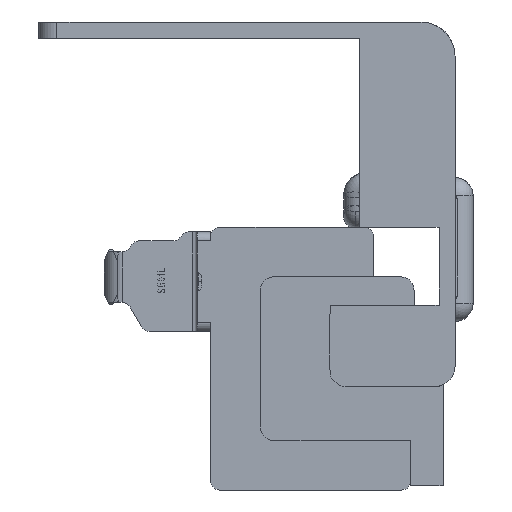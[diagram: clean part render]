
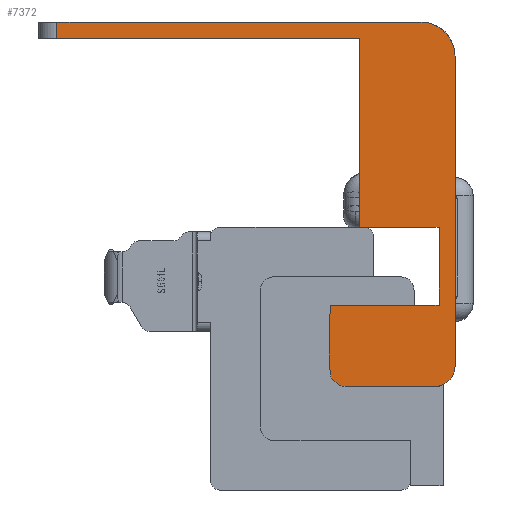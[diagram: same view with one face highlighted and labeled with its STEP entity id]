
A CAD part, left-side view. The second image highlights one B-rep face of the part: STEP entity #7372.
In plain terms, the highlighted planar face has unit normal (-1, 0, 0).
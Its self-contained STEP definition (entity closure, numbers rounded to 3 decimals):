
#58 = ORIENTED_EDGE ( 'NONE', *, *, #4424, .F. ) ;
#414 = AXIS2_PLACEMENT_3D ( 'NONE', #8929, #5436, #11895 ) ;
#465 = CARTESIAN_POINT ( 'NONE',  ( -180., 1.77, 17.6 ) ) ;
#573 = VECTOR ( 'NONE', #11272, 1000. ) ;
#585 = CARTESIAN_POINT ( 'NONE',  ( -180., 2.27, 0. ) ) ;
#693 = CIRCLE ( 'NONE', #6649, 1.5 ) ;
#781 = VERTEX_POINT ( 'NONE', #11240 ) ;
#860 = VERTEX_POINT ( 'NONE', #982 ) ;
#921 = CARTESIAN_POINT ( 'NONE',  ( -180., 11.92, 1.987 ) ) ;
#982 = CARTESIAN_POINT ( 'NONE',  ( -180., 0., 2.27 ) ) ;
#1037 = CARTESIAN_POINT ( 'NONE',  ( -180., 2.27, 2.27 ) ) ;
#1142 = VERTEX_POINT ( 'NONE', #10855 ) ;
#1147 = CARTESIAN_POINT ( 'NONE',  ( -180., 12.313, 1.677 ) ) ;
#1701 = EDGE_CURVE ( 'NONE', #11219, #6331, #8021, .T. ) ;
#1766 = EDGE_CURVE ( 'NONE', #1142, #11414, #9893, .T. ) ;
#1873 = ORIENTED_EDGE ( 'NONE', *, *, #1766, .F. ) ;
#1889 = DIRECTION ( 'NONE',  ( 0., 0., -1. ) ) ;
#1914 = VECTOR ( 'NONE', #9351, 1000. ) ;
#1985 = DIRECTION ( 'NONE',  ( 0., 0., -1. ) ) ;
#2055 = VECTOR ( 'NONE', #4136, 1000. ) ;
#2093 = ORIENTED_EDGE ( 'NONE', *, *, #2942, .F. ) ;
#2096 = DIRECTION ( 'NONE',  ( 0., 0., -1. ) ) ;
#2116 = ORIENTED_EDGE ( 'NONE', *, *, #7010, .T. ) ;
#2171 = CIRCLE ( 'NONE', #12067, 2.27 ) ;
#2245 = CARTESIAN_POINT ( 'NONE',  ( -180., 0., 20.15 ) ) ;
#2419 = ORIENTED_EDGE ( 'NONE', *, *, #1701, .T. ) ;
#2449 = ORIENTED_EDGE ( 'NONE', *, *, #7534, .F. ) ;
#2455 = LINE ( 'NONE', #2245, #4651 ) ;
#2552 = DIRECTION ( 'NONE',  ( 1., 0., 0. ) ) ;
#2594 = VECTOR ( 'NONE', #11221, 1000. ) ;
#2693 = EDGE_CURVE ( 'NONE', #3387, #5515, #4537, .T. ) ;
#2876 = VERTEX_POINT ( 'NONE', #11058 ) ;
#2896 = VECTOR ( 'NONE', #8088, 1000. ) ;
#2921 = AXIS2_PLACEMENT_3D ( 'NONE', #921, #7467, #1889 ) ;
#2942 = EDGE_CURVE ( 'NONE', #2876, #3233, #3068, .T. ) ;
#3068 = CIRCLE ( 'NONE', #2921, 2. ) ;
#3216 = ORIENTED_EDGE ( 'NONE', *, *, #4361, .F. ) ;
#3233 = VERTEX_POINT ( 'NONE', #3843 ) ;
#3387 = VERTEX_POINT ( 'NONE', #9624 ) ;
#3562 = CARTESIAN_POINT ( 'NONE',  ( -180., 10.57, 17.6 ) ) ;
#3759 = CARTESIAN_POINT ( 'NONE',  ( -180., 10.57, 38.53 ) ) ;
#3843 = CARTESIAN_POINT ( 'NONE',  ( -180., 13.49, 0.748 ) ) ;
#4027 = EDGE_LOOP ( 'NONE', ( #11648, #2419, #9294, #3216, #2116, #58, #4932, #10627, #11586, #2093, #2449, #7826, #11983, #1873 ) ) ;
#4136 = DIRECTION ( 'NONE',  ( 0., 1., 0. ) ) ;
#4185 = CARTESIAN_POINT ( 'NONE',  ( -180., 44., 40.3 ) ) ;
#4361 = EDGE_CURVE ( 'NONE', #781, #8641, #5372, .T. ) ;
#4424 = EDGE_CURVE ( 'NONE', #3387, #9569, #5692, .T. ) ;
#4537 = LINE ( 'NONE', #8743, #2055 ) ;
#4651 = VECTOR ( 'NONE', #11522, 1000. ) ;
#4718 = DIRECTION ( 'NONE',  ( 0., 0., 1. ) ) ;
#4751 = AXIS2_PLACEMENT_3D ( 'NONE', #8098, #2552, #9036 ) ;
#4879 = CARTESIAN_POINT ( 'NONE',  ( -180., 3.77, 36.53 ) ) ;
#4932 = ORIENTED_EDGE ( 'NONE', *, *, #2693, .T. ) ;
#5372 = LINE ( 'NONE', #9904, #2896 ) ;
#5436 = DIRECTION ( 'NONE',  ( 1., 0., 0. ) ) ;
#5515 = VERTEX_POINT ( 'NONE', #8726 ) ;
#5692 = LINE ( 'NONE', #11145, #7842 ) ;
#5726 = AXIS2_PLACEMENT_3D ( 'NONE', #4879, #11351, #5808 ) ;
#5808 = DIRECTION ( 'NONE',  ( 0., 0., -1. ) ) ;
#5945 = CARTESIAN_POINT ( 'NONE',  ( -180., 0., 36.53 ) ) ;
#5974 = EDGE_CURVE ( 'NONE', #10041, #5515, #10369, .T. ) ;
#6004 = VECTOR ( 'NONE', #10034, 1000. ) ;
#6197 = CARTESIAN_POINT ( 'NONE',  ( -180., 13.809, 1.58 ) ) ;
#6265 = VECTOR ( 'NONE', #9071, 1000. ) ;
#6322 = VERTEX_POINT ( 'NONE', #585 ) ;
#6331 = VERTEX_POINT ( 'NONE', #7128 ) ;
#6649 = AXIS2_PLACEMENT_3D ( 'NONE', #1147, #7663, #2096 ) ;
#7010 = EDGE_CURVE ( 'NONE', #781, #9569, #8460, .T. ) ;
#7128 = CARTESIAN_POINT ( 'NONE',  ( -180., 44., 38.53 ) ) ;
#7372 = ADVANCED_FACE ( 'NONE', ( #10489 ), #10772, .F. ) ;
#7467 = DIRECTION ( 'NONE',  ( 1., 0., 0. ) ) ;
#7534 = EDGE_CURVE ( 'NONE', #6322, #2876, #11759, .T. ) ;
#7562 = DIRECTION ( 'NONE',  ( 1., 0., 0. ) ) ;
#7663 = DIRECTION ( 'NONE',  ( 1., 0., 0. ) ) ;
#7826 = ORIENTED_EDGE ( 'NONE', *, *, #9309, .F. ) ;
#7842 = VECTOR ( 'NONE', #4718, 1000. ) ;
#8021 = LINE ( 'NONE', #8473, #573 ) ;
#8088 = DIRECTION ( 'NONE',  ( 0., 0., 1. ) ) ;
#8098 = CARTESIAN_POINT ( 'NONE',  ( -180., -39.08, 5.009 ) ) ;
#8143 = CARTESIAN_POINT ( 'NONE',  ( -180., 23., 40.3 ) ) ;
#8336 = CARTESIAN_POINT ( 'NONE',  ( -180., 23., 38.53 ) ) ;
#8460 = LINE ( 'NONE', #3562, #6004 ) ;
#8473 = CARTESIAN_POINT ( 'NONE',  ( -180., 44., 38.53 ) ) ;
#8641 = VERTEX_POINT ( 'NONE', #3759 ) ;
#8715 = LINE ( 'NONE', #8143, #6265 ) ;
#8726 = CARTESIAN_POINT ( 'NONE',  ( -180., 13.77, 9. ) ) ;
#8743 = CARTESIAN_POINT ( 'NONE',  ( -180., 23., 9. ) ) ;
#8929 = CARTESIAN_POINT ( 'NONE',  ( -180., 23., 20.15 ) ) ;
#9036 = DIRECTION ( 'NONE',  ( 0., 0., -1. ) ) ;
#9071 = DIRECTION ( 'NONE',  ( 0., -1., 0. ) ) ;
#9294 = ORIENTED_EDGE ( 'NONE', *, *, #10995, .F. ) ;
#9309 = EDGE_CURVE ( 'NONE', #860, #6322, #2171, .T. ) ;
#9351 = DIRECTION ( 'NONE',  ( 0., 1., 0. ) ) ;
#9569 = VERTEX_POINT ( 'NONE', #465 ) ;
#9624 = CARTESIAN_POINT ( 'NONE',  ( -180., 1.77, 9. ) ) ;
#9693 = EDGE_CURVE ( 'NONE', #11219, #1142, #8715, .T. ) ;
#9830 = EDGE_CURVE ( 'NONE', #3233, #10041, #693, .T. ) ;
#9893 = CIRCLE ( 'NONE', #5726, 3.77 ) ;
#9904 = CARTESIAN_POINT ( 'NONE',  ( -180., 10.57, 36.53 ) ) ;
#10034 = DIRECTION ( 'NONE',  ( 0., -1., 0. ) ) ;
#10041 = VERTEX_POINT ( 'NONE', #6197 ) ;
#10292 = LINE ( 'NONE', #8336, #2594 ) ;
#10333 = CARTESIAN_POINT ( 'NONE',  ( -180., 23., 0. ) ) ;
#10369 = CIRCLE ( 'NONE', #4751, 53. ) ;
#10489 = FACE_OUTER_BOUND ( 'NONE', #4027, .T. ) ;
#10627 = ORIENTED_EDGE ( 'NONE', *, *, #5974, .F. ) ;
#10772 = PLANE ( 'NONE',  #414 ) ;
#10774 = EDGE_CURVE ( 'NONE', #11414, #860, #2455, .T. ) ;
#10855 = CARTESIAN_POINT ( 'NONE',  ( -180., 3.77, 40.3 ) ) ;
#10995 = EDGE_CURVE ( 'NONE', #8641, #6331, #10292, .T. ) ;
#11058 = CARTESIAN_POINT ( 'NONE',  ( -180., 12.15, 0. ) ) ;
#11145 = CARTESIAN_POINT ( 'NONE',  ( -180., 1.77, 20.15 ) ) ;
#11219 = VERTEX_POINT ( 'NONE', #4185 ) ;
#11221 = DIRECTION ( 'NONE',  ( 0., 1., 0. ) ) ;
#11240 = CARTESIAN_POINT ( 'NONE',  ( -180., 10.57, 17.6 ) ) ;
#11272 = DIRECTION ( 'NONE',  ( 0., 0., -1. ) ) ;
#11351 = DIRECTION ( 'NONE',  ( 1., 0., 0. ) ) ;
#11414 = VERTEX_POINT ( 'NONE', #5945 ) ;
#11522 = DIRECTION ( 'NONE',  ( 0., 0., -1. ) ) ;
#11586 = ORIENTED_EDGE ( 'NONE', *, *, #9830, .F. ) ;
#11648 = ORIENTED_EDGE ( 'NONE', *, *, #9693, .F. ) ;
#11759 = LINE ( 'NONE', #10333, #1914 ) ;
#11895 = DIRECTION ( 'NONE',  ( 0., 0., -1. ) ) ;
#11983 = ORIENTED_EDGE ( 'NONE', *, *, #10774, .F. ) ;
#12067 = AXIS2_PLACEMENT_3D ( 'NONE', #1037, #7562, #1985 ) ;
